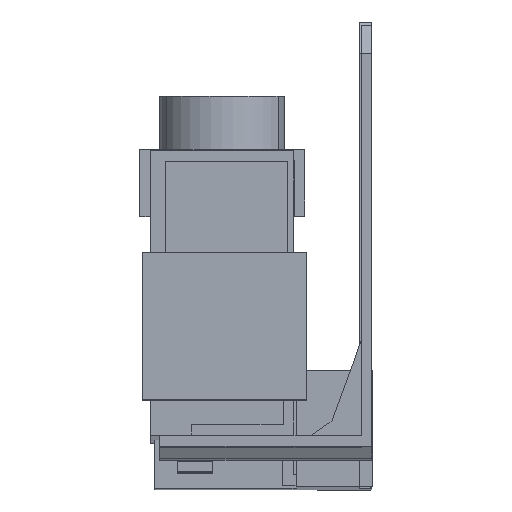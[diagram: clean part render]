
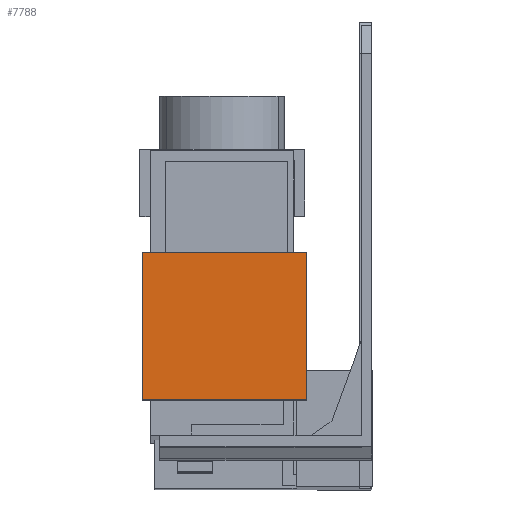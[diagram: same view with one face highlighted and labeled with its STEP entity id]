
A CAD part, front view. The second image highlights one B-rep face of the part: STEP entity #7788.
In plain terms, the highlighted planar face has unit normal (0, -1, 0.003).
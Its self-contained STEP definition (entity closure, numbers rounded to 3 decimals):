
#251 = LINE ( 'NONE', #7344, #259 ) ;
#259 = VECTOR ( 'NONE', #7347, 1000. ) ;
#415 = LINE ( 'NONE', #5050, #420 ) ;
#420 = VECTOR ( 'NONE', #5055, 1000. ) ;
#1670 = CARTESIAN_POINT ( 'NONE',  ( -9.3, -31.452, -19.316 ) ) ;
#1672 = CARTESIAN_POINT ( 'NONE',  ( -32.7, -31.452, -19.316 ) ) ;
#1673 = CARTESIAN_POINT ( 'NONE',  ( -32.7, -31.509, -40.315 ) ) ;
#1674 = CARTESIAN_POINT ( 'NONE',  ( -9.3, -31.509, -40.315 ) ) ;
#2226 = CARTESIAN_POINT ( 'NONE',  ( -32.7, -31.509, -40.315 ) ) ;
#2227 = DIRECTION ( 'NONE',  ( 0., 0.003, 1. ) ) ;
#2471 = LINE ( 'NONE', #2226, #2472 ) ;
#2472 = VECTOR ( 'NONE', #2227, 1000. ) ;
#2770 = LINE ( 'NONE', #3429, #2771 ) ;
#2771 = VECTOR ( 'NONE', #3430, 1000. ) ;
#3194 = FACE_OUTER_BOUND ( 'NONE', #5534, .T. ) ;
#3429 = CARTESIAN_POINT ( 'NONE',  ( -9.3, -31.452, -19.316 ) ) ;
#3430 = DIRECTION ( 'NONE',  ( -1., 0., 0. ) ) ;
#4294 = PLANE ( 'NONE',  #6162 ) ;
#4297 = CARTESIAN_POINT ( 'NONE',  ( -9.3, -31.509, -40.315 ) ) ;
#4303 = DIRECTION ( 'NONE',  ( 0., -1., 0.003 ) ) ;
#4304 = DIRECTION ( 'NONE',  ( 1., 0., 0. ) ) ;
#5050 = CARTESIAN_POINT ( 'NONE',  ( -9.3, -31.509, -40.315 ) ) ;
#5055 = DIRECTION ( 'NONE',  ( -1., 0., 0. ) ) ;
#5534 = EDGE_LOOP ( 'NONE', ( #9132, #9133, #9134, #9135 ) ) ;
#5833 = EDGE_CURVE ( 'NONE', #6715, #6711, #251, .T. ) ;
#6001 = EDGE_CURVE ( 'NONE', #6715, #6714, #415, .T. ) ;
#6162 = AXIS2_PLACEMENT_3D ( 'NONE', #4297, #4303, #4304 ) ;
#6711 = VERTEX_POINT ( 'NONE', #1670 ) ;
#6713 = VERTEX_POINT ( 'NONE', #1672 ) ;
#6714 = VERTEX_POINT ( 'NONE', #1673 ) ;
#6715 = VERTEX_POINT ( 'NONE', #1674 ) ;
#7061 = EDGE_CURVE ( 'NONE', #6714, #6713, #2471, .T. ) ;
#7227 = EDGE_CURVE ( 'NONE', #6711, #6713, #2770, .T. ) ;
#7344 = CARTESIAN_POINT ( 'NONE',  ( -9.3, -31.509, -40.315 ) ) ;
#7347 = DIRECTION ( 'NONE',  ( 0., 0.003, 1. ) ) ;
#7788 = ADVANCED_FACE ( 'NONE', ( #3194 ), #4294, .T. ) ;
#9132 = ORIENTED_EDGE ( 'NONE', *, *, #7227, .T. ) ;
#9133 = ORIENTED_EDGE ( 'NONE', *, *, #7061, .F. ) ;
#9134 = ORIENTED_EDGE ( 'NONE', *, *, #6001, .F. ) ;
#9135 = ORIENTED_EDGE ( 'NONE', *, *, #5833, .T. ) ;
